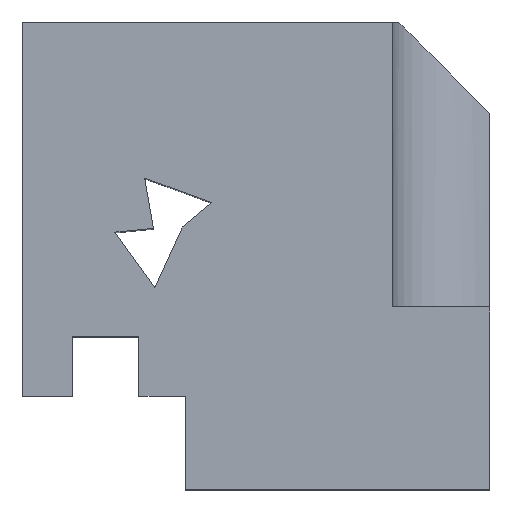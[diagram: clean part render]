
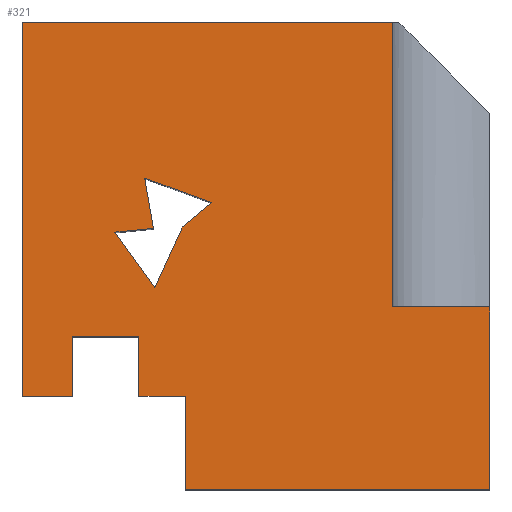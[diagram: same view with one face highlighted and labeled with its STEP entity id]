
A CAD part, top view. The second image highlights one B-rep face of the part: STEP entity #321.
In plain terms, the highlighted planar face has unit normal (0, 0, 1).
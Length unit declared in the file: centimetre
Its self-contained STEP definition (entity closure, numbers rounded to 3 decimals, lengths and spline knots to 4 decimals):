
#4 = LINE ( 'NONE', #12, #540 ) ;
#12 = CARTESIAN_POINT ( 'NONE',  ( 198.3735, 550.5609, 1000. ) ) ;
#16 = ORIENTED_EDGE ( 'NONE', *, *, #1132, .F. ) ;
#21 = ORIENTED_EDGE ( 'NONE', *, *, #256, .F. ) ;
#26 = DIRECTION ( 'NONE',  ( -1., 0., 0. ) ) ;
#27 = EDGE_CURVE ( 'NONE', #176, #910, #951, .T. ) ;
#29 = VECTOR ( 'NONE', #480, 100. ) ;
#30 = VECTOR ( 'NONE', #528, 100. ) ;
#33 = VECTOR ( 'NONE', #499, 100. ) ;
#51 = EDGE_LOOP ( 'NONE', ( #549, #842, #1216, #1304, #575, #1199, #938, #1119, #159, #1225, #495, #897 ) ) ;
#53 = CARTESIAN_POINT ( 'NONE',  ( 0., 390.6116, 1000. ) ) ;
#61 = CARTESIAN_POINT ( 'NONE',  ( 405.1646, 613.9626, 1000. ) ) ;
#63 = EDGE_CURVE ( 'NONE', #105, #1170, #855, .T. ) ;
#67 = CARTESIAN_POINT ( 'NONE',  ( 249.6438, 199.351, 1000. ) ) ;
#74 = CARTESIAN_POINT ( 'NONE',  ( 107.8892, 199.351, 1000. ) ) ;
#105 = VERTEX_POINT ( 'NONE', #522 ) ;
#123 = CARTESIAN_POINT ( 'NONE',  ( 198.3735, 550.5609, 1000. ) ) ;
#126 = VECTOR ( 'NONE', #26, 100. ) ;
#132 = VERTEX_POINT ( 'NONE', #332 ) ;
#151 = CARTESIAN_POINT ( 'NONE',  ( 342.6643, 561.6542, 1000. ) ) ;
#156 = EDGE_CURVE ( 'NONE', #105, #651, #666, .T. ) ;
#159 = ORIENTED_EDGE ( 'NONE', *, *, #723, .T. ) ;
#172 = CARTESIAN_POINT ( 'NONE',  ( 0., 199.351, 1000. ) ) ;
#173 = AXIS2_PLACEMENT_3D ( 'NONE', #805, #493, #602 ) ;
#176 = VERTEX_POINT ( 'NONE', #123 ) ;
#182 = CARTESIAN_POINT ( 'NONE',  ( 107.8892, 327.9305, 1000. ) ) ;
#185 = CARTESIAN_POINT ( 'NONE',  ( 348.8095, 199.351, 1000. ) ) ;
#194 = EDGE_CURVE ( 'NONE', #977, #471, #227, .T. ) ;
#217 = VECTOR ( 'NONE', #630, 100. ) ;
#227 = LINE ( 'NONE', #483, #1180 ) ;
#256 = EDGE_CURVE ( 'NONE', #1212, #370, #1187, .T. ) ;
#260 = LINE ( 'NONE', #920, #29 ) ;
#265 = EDGE_CURVE ( 'NONE', #1004, #176, #4, .T. ) ;
#274 = EDGE_CURVE ( 'NONE', #1212, #1004, #832, .T. ) ;
#321 = ADVANCED_FACE ( 'NONE', ( #813, #1236 ), #1029, .T. ) ;
#322 = DIRECTION ( 'NONE',  ( -1., 0., 0. ) ) ;
#332 = CARTESIAN_POINT ( 'NONE',  ( 249.6438, 327.9305, 1000. ) ) ;
#335 = VERTEX_POINT ( 'NONE', #598 ) ;
#350 = DIRECTION ( 'NONE',  ( 0., 1., 0. ) ) ;
#365 = DIRECTION ( 'NONE',  ( 0.767, 0.642, 0. ) ) ;
#370 = VERTEX_POINT ( 'NONE', #1023 ) ;
#375 = LINE ( 'NONE', #803, #1154 ) ;
#379 = DIRECTION ( 'NONE',  ( 0., 1., 0. ) ) ;
#386 = DIRECTION ( 'NONE',  ( 0.172, -0.985, 0. ) ) ;
#396 = EDGE_LOOP ( 'NONE', ( #21, #983, #592, #585, #16, #468 ) ) ;
#407 = CARTESIAN_POINT ( 'NONE',  ( 280.7962, 558.6465, 1000. ) ) ;
#408 = VECTOR ( 'NONE', #923, 100. ) ;
#410 = VERTEX_POINT ( 'NONE', #1369 ) ;
#447 = CARTESIAN_POINT ( 'NONE',  ( 261.9566, 666.2928, 1000. ) ) ;
#460 = CARTESIAN_POINT ( 'NONE',  ( 107.8892, 178.5979, 1000. ) ) ;
#468 = ORIENTED_EDGE ( 'NONE', *, *, #730, .F. ) ;
#471 = VERTEX_POINT ( 'NONE', #185 ) ;
#480 = DIRECTION ( 'NONE',  ( -1., 0., 0. ) ) ;
#483 = CARTESIAN_POINT ( 'NONE',  ( 348.8095, 0., 1000. ) ) ;
#493 = DIRECTION ( 'NONE',  ( 0., 0., 1. ) ) ;
#495 = ORIENTED_EDGE ( 'NONE', *, *, #156, .T. ) ;
#496 = VECTOR ( 'NONE', #1241, 100. ) ;
#499 = DIRECTION ( 'NONE',  ( -1., 0., 0. ) ) ;
#522 = CARTESIAN_POINT ( 'NONE',  ( 792.0985, 1000., 1000. ) ) ;
#528 = DIRECTION ( 'NONE',  ( 0.995, 0.098, 0. ) ) ;
#540 = VECTOR ( 'NONE', #581, 100. ) ;
#544 = VECTOR ( 'NONE', #799, 100. ) ;
#545 = DIRECTION ( 'NONE',  ( 0., -1., 0. ) ) ;
#549 = ORIENTED_EDGE ( 'NONE', *, *, #1259, .F. ) ;
#571 = CARTESIAN_POINT ( 'NONE',  ( 1000., 390.6116, 1000. ) ) ;
#575 = ORIENTED_EDGE ( 'NONE', *, *, #1186, .F. ) ;
#581 = DIRECTION ( 'NONE',  ( -0.582, 0.813, 0. ) ) ;
#584 = CARTESIAN_POINT ( 'NONE',  ( 261.9566, 666.2928, 1000. ) ) ;
#585 = ORIENTED_EDGE ( 'NONE', *, *, #27, .T. ) ;
#590 = EDGE_CURVE ( 'NONE', #335, #1255, #1307, .T. ) ;
#592 = ORIENTED_EDGE ( 'NONE', *, *, #265, .T. ) ;
#596 = LINE ( 'NONE', #53, #33 ) ;
#598 = CARTESIAN_POINT ( 'NONE',  ( 107.8892, 327.9305, 1000. ) ) ;
#602 = DIRECTION ( 'NONE',  ( 1., 0., 0. ) ) ;
#619 = CARTESIAN_POINT ( 'NONE',  ( 0., 0., 1000. ) ) ;
#630 = DIRECTION ( 'NONE',  ( -1., 0., 0. ) ) ;
#633 = VECTOR ( 'NONE', #1041, 100. ) ;
#651 = VERTEX_POINT ( 'NONE', #981 ) ;
#664 = CARTESIAN_POINT ( 'NONE',  ( 283.6275, 431.4916, 1000. ) ) ;
#666 = LINE ( 'NONE', #887, #126 ) ;
#705 = EDGE_CURVE ( 'NONE', #651, #757, #1022, .T. ) ;
#717 = CARTESIAN_POINT ( 'NONE',  ( 283.6275, 431.4916, 1000. ) ) ;
#722 = LINE ( 'NONE', #61, #1051 ) ;
#723 = EDGE_CURVE ( 'NONE', #1062, #1170, #596, .T. ) ;
#730 = EDGE_CURVE ( 'NONE', #370, #1068, #722, .T. ) ;
#757 = VERTEX_POINT ( 'NONE', #172 ) ;
#799 = DIRECTION ( 'NONE',  ( 0., -1., 0. ) ) ;
#803 = CARTESIAN_POINT ( 'NONE',  ( 1000., 1000., 1000. ) ) ;
#805 = CARTESIAN_POINT ( 'NONE',  ( 0., 0., 1000. ) ) ;
#811 = VECTOR ( 'NONE', #1226, 100. ) ;
#813 = FACE_OUTER_BOUND ( 'NONE', #51, .T. ) ;
#819 = LINE ( 'NONE', #584, #986 ) ;
#829 = EDGE_CURVE ( 'NONE', #977, #410, #859, .T. ) ;
#832 = LINE ( 'NONE', #717, #496 ) ;
#842 = ORIENTED_EDGE ( 'NONE', *, *, #590, .F. ) ;
#855 = LINE ( 'NONE', #1266, #1336 ) ;
#859 = LINE ( 'NONE', #619, #633 ) ;
#867 = VERTEX_POINT ( 'NONE', #67 ) ;
#887 = CARTESIAN_POINT ( 'NONE',  ( 0., 1000., 1000. ) ) ;
#894 = CARTESIAN_POINT ( 'NONE',  ( 288.2413, 516.106, 1000. ) ) ;
#897 = ORIENTED_EDGE ( 'NONE', *, *, #705, .T. ) ;
#910 = VERTEX_POINT ( 'NONE', #407 ) ;
#920 = CARTESIAN_POINT ( 'NONE',  ( 348.8095, 199.351, 1000. ) ) ;
#923 = DIRECTION ( 'NONE',  ( 0., -1., 0. ) ) ;
#938 = ORIENTED_EDGE ( 'NONE', *, *, #829, .T. ) ;
#946 = CARTESIAN_POINT ( 'NONE',  ( 348.8095, 199.351, 1000. ) ) ;
#951 = LINE ( 'NONE', #1156, #30 ) ;
#958 = LINE ( 'NONE', #946, #217 ) ;
#965 = LINE ( 'NONE', #182, #1310 ) ;
#977 = VERTEX_POINT ( 'NONE', #1306 ) ;
#981 = CARTESIAN_POINT ( 'NONE',  ( 0., 1000., 1000. ) ) ;
#983 = ORIENTED_EDGE ( 'NONE', *, *, #274, .T. ) ;
#986 = VECTOR ( 'NONE', #386, 100. ) ;
#1004 = VERTEX_POINT ( 'NONE', #664 ) ;
#1016 = LINE ( 'NONE', #1034, #811 ) ;
#1022 = LINE ( 'NONE', #1235, #408 ) ;
#1023 = CARTESIAN_POINT ( 'NONE',  ( 405.1646, 613.9626, 1000. ) ) ;
#1029 = PLANE ( 'NONE',  #173 ) ;
#1034 = CARTESIAN_POINT ( 'NONE',  ( 249.6438, 178.5979, 1000. ) ) ;
#1041 = DIRECTION ( 'NONE',  ( 1., 0., 0. ) ) ;
#1051 = VECTOR ( 'NONE', #1134, 100. ) ;
#1062 = VERTEX_POINT ( 'NONE', #571 ) ;
#1068 = VERTEX_POINT ( 'NONE', #447 ) ;
#1119 = ORIENTED_EDGE ( 'NONE', *, *, #1195, .T. ) ;
#1132 = EDGE_CURVE ( 'NONE', #1068, #910, #819, .T. ) ;
#1134 = DIRECTION ( 'NONE',  ( -0.939, 0.343, 0. ) ) ;
#1154 = VECTOR ( 'NONE', #379, 100. ) ;
#1156 = CARTESIAN_POINT ( 'NONE',  ( 344.1175, 564.8583, 1000. ) ) ;
#1164 = EDGE_CURVE ( 'NONE', #867, #132, #1016, .T. ) ;
#1170 = VERTEX_POINT ( 'NONE', #1344 ) ;
#1180 = VECTOR ( 'NONE', #350, 100. ) ;
#1186 = EDGE_CURVE ( 'NONE', #471, #867, #260, .T. ) ;
#1187 = LINE ( 'NONE', #894, #1381 ) ;
#1195 = EDGE_CURVE ( 'NONE', #410, #1062, #375, .T. ) ;
#1199 = ORIENTED_EDGE ( 'NONE', *, *, #194, .F. ) ;
#1212 = VERTEX_POINT ( 'NONE', #151 ) ;
#1216 = ORIENTED_EDGE ( 'NONE', *, *, #1338, .F. ) ;
#1225 = ORIENTED_EDGE ( 'NONE', *, *, #63, .F. ) ;
#1226 = DIRECTION ( 'NONE',  ( 0., 1., 0. ) ) ;
#1235 = CARTESIAN_POINT ( 'NONE',  ( 0., 1000., 1000. ) ) ;
#1236 = FACE_BOUND ( 'NONE', #396, .T. ) ;
#1241 = DIRECTION ( 'NONE',  ( -0.413, -0.911, 0. ) ) ;
#1255 = VERTEX_POINT ( 'NONE', #74 ) ;
#1259 = EDGE_CURVE ( 'NONE', #1255, #757, #958, .T. ) ;
#1266 = CARTESIAN_POINT ( 'NONE',  ( 792.0985, 390.6116, 1000. ) ) ;
#1304 = ORIENTED_EDGE ( 'NONE', *, *, #1164, .F. ) ;
#1306 = CARTESIAN_POINT ( 'NONE',  ( 348.8095, 0., 1000. ) ) ;
#1307 = LINE ( 'NONE', #460, #544 ) ;
#1310 = VECTOR ( 'NONE', #322, 100. ) ;
#1336 = VECTOR ( 'NONE', #545, 100. ) ;
#1338 = EDGE_CURVE ( 'NONE', #132, #335, #965, .T. ) ;
#1344 = CARTESIAN_POINT ( 'NONE',  ( 792.0985, 390.6116, 1000. ) ) ;
#1369 = CARTESIAN_POINT ( 'NONE',  ( 1000., 0., 1000. ) ) ;
#1381 = VECTOR ( 'NONE', #365, 100. ) ;
